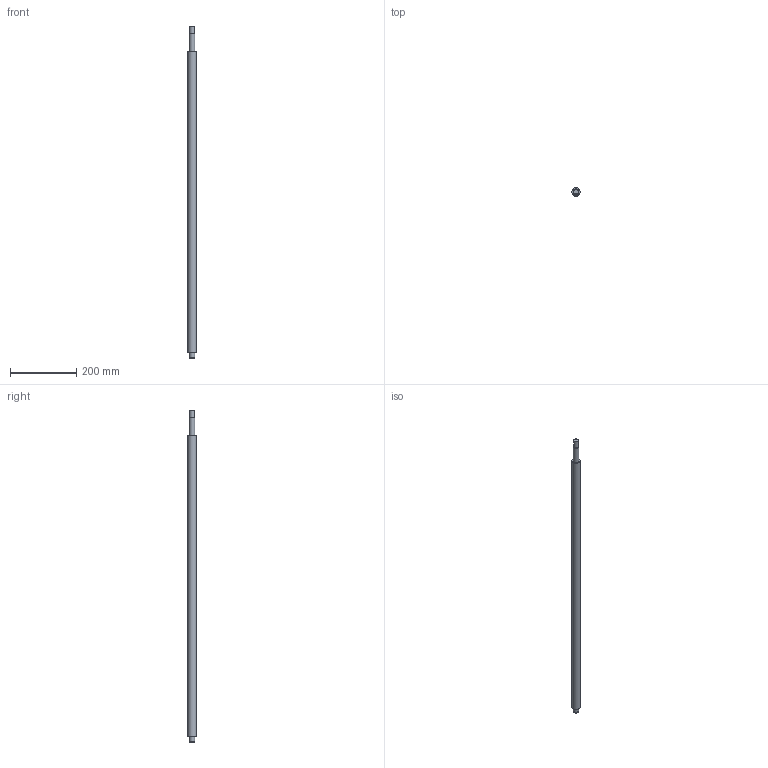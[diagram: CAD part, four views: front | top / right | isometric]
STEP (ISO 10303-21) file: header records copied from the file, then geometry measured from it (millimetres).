
FILE_DESCRIPTION(/* description */ (''),/* implementation_level */ '2;1');
FILE_NAME(/* name */ 'C:\Users\David Dillkötter\ownCloud\Kamp und Kötter\Artikel\_CAD-Dateien\CAD-Dateien-Shop\CAD-Dateien\Kugelumlaufspindel\2510\KUS2510x1000.stp',/* time_stamp */ '2020-09-03T09:48:15+02:00',/* author */ ('David Dillkötter'),/* organization */ (''),/* preprocessor_version */ 'ST-DEVELOPER v18.1',/* originating_system */ 'Autodesk Inventor 2021',/* authorisation */ '');
FILE_SCHEMA (('AUTOMOTIVE_DESIGN { 1 0 10303 214 3 1 1 }'));
Length unit declared in the file: millimetre
Products named in the file (1): KUS2510_Gewindespindel
Bounding box: 25 x 25 x 1000 mm (x, y, z)
Volume: 465410.9 mm3; surface area: 77076.2 mm2
Topology: 1 solids, 1 shells, 17 faces, 30 edges, 20 vertices
Faces by surface type: plane 7, cylinder 6, cone 4
Full cylindrical faces by diameter (mm): 15 x1, 16.2 x1, 17 x3, 25 x1
Entity records: 465 total; most frequent: DIRECTION 86, CARTESIAN_POINT 68, ORIENTED_EDGE 60, AXIS2_PLACEMENT_3D 38, EDGE_CURVE 30, EDGE_LOOP 22, CIRCLE 20, VERTEX_POINT 20
